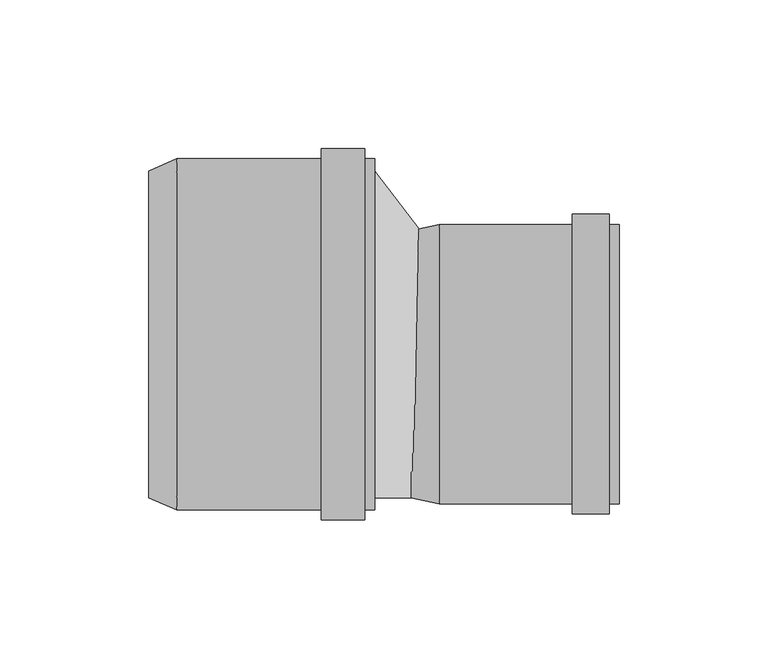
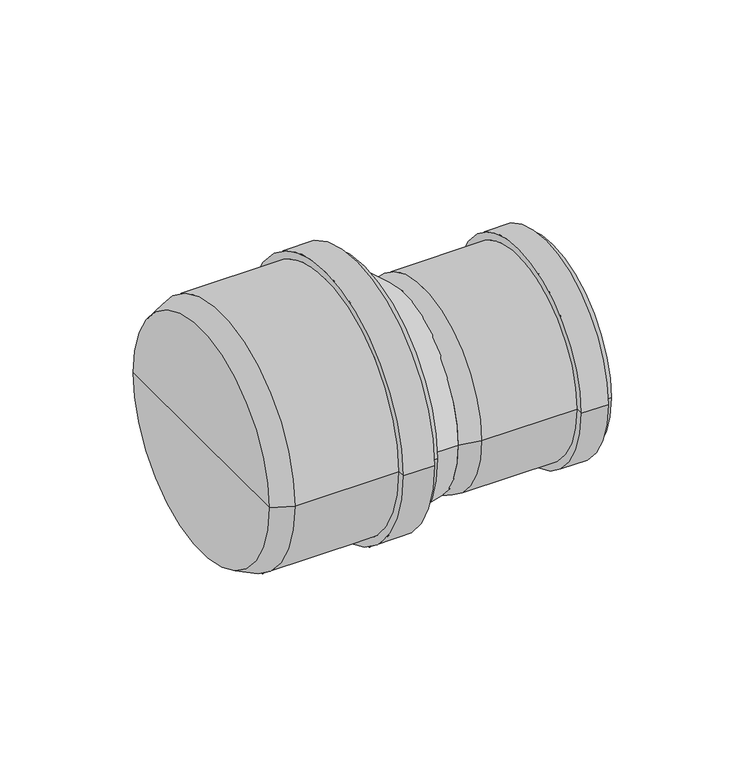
"""IFC4 building model written with IfcOpenShell, lengths in millimetres: pipe fitting geometry, pf_HTR_red-nes-kratka : pf_HTR_red-nes-kratka."""

from ifc_helpers import new_model, si_unit, frame, origin, place, context, project, spatial, polyline, circle_curve, source, transform, mapped, element, save
from ifc_brep_helpers import plane_surface, cylinder_surface, revolved_surface, spline_surface, advanced_brep


def pipe_fitting_57054826(model_context):
    return source(origin(), model_context, "Body", "AdvancedBrep", [
        advanced_brep(
        [(-76.0, -55.0, 0.0), (-76.0, 55.0, 0.0), (-66.5, 59.1, 0.0), (-66.5, -59.1, 0.0), (-76.0, 0.0, 0.0), (0.0, -59.1, 0.0), (0.0, 59.1, 0.0), (0.0, 0.0, 0.0), (-3.4, -59.1, 0.0), (-3.4, 59.1, 0.0), (-3.4, -62.5, 0.0), (-3.4, 62.5, 0.0), (-17.9, -62.5, 0.0), (-17.9, 62.5, 0.0), (-17.9, -59.1, 0.0), (-17.9, 59.1, 0.0)],
        [
            (0, 1, circle_curve(frame((-76.0, 0.0, 0.0), z_axis=(1.0, 0.0, 0.0), x_axis=(0.0, 1.0, 0.0)), 55.0)),
            (1, 2),
            (2, 3, circle_curve(frame((-66.5, 0.0, 0.0), z_axis=(-1.0, 0.0, 0.0), x_axis=(0.0, 1.0, 0.0)), 59.1)),
            (3, 0),
            (1, 0, circle_curve(frame((-76.0, 0.0, 0.0), z_axis=(1.0, 0.0, 0.0), x_axis=(0.0, 1.0, 0.0)), 55.0)),
            (3, 2, circle_curve(frame((-66.5, 0.0, 0.0), z_axis=(-1.0, 0.0, 0.0), x_axis=(0.0, 1.0, 0.0)), 59.1)),
            (4, 1),
            (0, 4),
            (5, 6, circle_curve(frame((0.0, 0.0, 0.0), z_axis=(1.0, 0.0, 0.0), x_axis=(0.0, 1.0, 0.0)), 59.1)),
            (6, 7),
            (7, 5),
            (6, 5, circle_curve(frame((0.0, 0.0, 0.0), z_axis=(1.0, 0.0, 0.0), x_axis=(0.0, 1.0, 0.0)), 59.1)),
            (8, 9, circle_curve(frame((-3.4, 0.0, 0.0), z_axis=(1.0, 0.0, 0.0), x_axis=(0.0, 1.0, 0.0)), 59.1)),
            (9, 6),
            (5, 8),
            (9, 8, circle_curve(frame((-3.4, 0.0, 0.0), z_axis=(1.0, 0.0, 0.0), x_axis=(0.0, 1.0, 0.0)), 59.1)),
            (10, 11, circle_curve(frame((-3.4, 0.0, 0.0), z_axis=(1.0, 0.0, 0.0), x_axis=(0.0, 1.0, 0.0)), 62.5)),
            (11, 9),
            (8, 10),
            (11, 10, circle_curve(frame((-3.4, 0.0, 0.0), z_axis=(1.0, 0.0, 0.0), x_axis=(0.0, 1.0, 0.0)), 62.5)),
            (12, 13, circle_curve(frame((-17.9, 0.0, 0.0), z_axis=(1.0, 0.0, 0.0), x_axis=(0.0, 1.0, 0.0)), 62.5)),
            (13, 11),
            (10, 12),
            (13, 12, circle_curve(frame((-17.9, 0.0, 0.0), z_axis=(1.0, 0.0, 0.0), x_axis=(0.0, 1.0, 0.0)), 62.5)),
            (14, 15, circle_curve(frame((-17.9, 0.0, 0.0), z_axis=(1.0, 0.0, 0.0), x_axis=(0.0, 1.0, 0.0)), 59.1)),
            (15, 13),
            (12, 14),
            (15, 14, circle_curve(frame((-17.9, 0.0, 0.0), z_axis=(1.0, 0.0, 0.0), x_axis=(0.0, 1.0, 0.0)), 59.1)),
            (2, 15),
            (14, 3),
        ],
        [
            revolved_surface(polyline([(-66.5, 59.1, 0.0), (-76.0, 55.0, 0.0)]), (-76.0, 0.0, 0.0), (-1.0, 0.0, 0.0)),
            plane_surface(frame((-76.0, 0.0, 0.0), z_axis=(-1.0, 0.0, 0.0), x_axis=(0.0, 1.0, 0.0))),
            plane_surface(frame((0.0, 0.0, 0.0), z_axis=(1.0, 0.0, 0.0), x_axis=(0.0, 1.0, 0.0))),
            cylinder_surface(frame((-76.0, 0.0, 0.0), z_axis=(-1.0, 0.0, 0.0), x_axis=(0.0, 1.0, 0.0)), 59.1),
            plane_surface(frame((-3.4, 0.0, 0.0), z_axis=(1.0, 0.0, 0.0), x_axis=(0.0, 1.0, 0.0))),
            cylinder_surface(frame((-76.0, 0.0, 0.0), z_axis=(-1.0, 0.0, 0.0), x_axis=(0.0, 1.0, 0.0)), 62.5),
            plane_surface(frame((-17.9, 0.0, 0.0), z_axis=(-1.0, 0.0, 0.0), x_axis=(0.0, 1.0, 0.0))),
        ],
        [
            (0, [[1, 2, 3, 4]]),
            (0, [[5, -4, 6, -2]]),
            (1, [[7, -1, 8]]),
            (1, [[-8, -5, -7]]),
            (2, [[9, 10, 11]]),
            (2, [[12, -11, -10]]),
            (3, [[13, 14, -9, 15]]),
            (3, [[16, -15, -12, -14]]),
            (4, [[17, 18, -13, 19]]),
            (4, [[20, -19, -16, -18]]),
            (5, [[21, 22, -17, 23]]),
            (5, [[24, -23, -20, -22]]),
            (6, [[25, 26, -21, 27]]),
            (6, [[28, -27, -24, -26]]),
            (3, [[-3, 29, -25, 30]]),
            (3, [[-6, -30, -28, -29]]),
        ],
    ),
        advanced_brep(
        [(12.25, -55.0, 0.0), (12.25, 35.0, 0.0), (21.75, 37.0, 0.0), (21.75, -57.0, 0.0), (12.25, -10.0, 0.0), (82.25, -57.0, 0.0), (82.25, 37.0, 0.0), (82.25, -10.0, 0.0), (78.85, -57.0, 0.0), (78.85, 37.0, 0.0), (78.85, -60.4, 0.0), (78.85, 40.4, 0.0), (66.35, -60.4, 0.0), (66.35, 40.4, 0.0), (66.35, -57.0, 0.0), (66.35, 37.0, 0.0)],
        [
            (0, 1, circle_curve(frame((12.25, -10.0, 0.0), z_axis=(1.0, 0.0, 0.0), x_axis=(0.0, 1.0, 0.0)), 45.0)),
            (1, 2),
            (2, 3, circle_curve(frame((21.75, -10.0, 0.0), z_axis=(-1.0, 0.0, 0.0), x_axis=(0.0, 1.0, 0.0)), 47.0)),
            (3, 0),
            (1, 0, circle_curve(frame((12.25, -10.0, 0.0), z_axis=(1.0, 0.0, 0.0), x_axis=(0.0, 1.0, 0.0)), 45.0)),
            (3, 2, circle_curve(frame((21.75, -10.0, 0.0), z_axis=(-1.0, 0.0, 0.0), x_axis=(0.0, 1.0, 0.0)), 47.0)),
            (4, 1),
            (0, 4),
            (5, 6, circle_curve(frame((82.25, -10.0, 0.0), z_axis=(1.0, 0.0, 0.0), x_axis=(0.0, 1.0, 0.0)), 47.0)),
            (6, 7),
            (7, 5),
            (6, 5, circle_curve(frame((82.25, -10.0, 0.0), z_axis=(1.0, 0.0, 0.0), x_axis=(0.0, 1.0, 0.0)), 47.0)),
            (8, 9, circle_curve(frame((78.85, -10.0, 0.0), z_axis=(1.0, 0.0, 0.0), x_axis=(0.0, 1.0, 0.0)), 47.0)),
            (9, 6),
            (5, 8),
            (9, 8, circle_curve(frame((78.85, -10.0, 0.0), z_axis=(1.0, 0.0, 0.0), x_axis=(0.0, 1.0, 0.0)), 47.0)),
            (10, 11, circle_curve(frame((78.85, -10.0, 0.0), z_axis=(1.0, 0.0, 0.0), x_axis=(0.0, 1.0, 0.0)), 50.4)),
            (11, 9),
            (8, 10),
            (11, 10, circle_curve(frame((78.85, -10.0, 0.0), z_axis=(1.0, 0.0, 0.0), x_axis=(0.0, 1.0, 0.0)), 50.4)),
            (12, 13, circle_curve(frame((66.35, -10.0, 0.0), z_axis=(1.0, 0.0, 0.0), x_axis=(0.0, 1.0, 0.0)), 50.4)),
            (13, 11),
            (10, 12),
            (13, 12, circle_curve(frame((66.35, -10.0, 0.0), z_axis=(1.0, 0.0, 0.0), x_axis=(0.0, 1.0, 0.0)), 50.4)),
            (14, 15, circle_curve(frame((66.35, -10.0, 0.0), z_axis=(1.0, 0.0, 0.0), x_axis=(0.0, 1.0, 0.0)), 47.0)),
            (15, 13),
            (12, 14),
            (15, 14, circle_curve(frame((66.35, -10.0, 0.0), z_axis=(1.0, 0.0, 0.0), x_axis=(0.0, 1.0, 0.0)), 47.0)),
            (2, 15),
            (14, 3),
        ],
        [
            revolved_surface(polyline([(21.75, 37.0, 0.0), (12.25, 35.0, 0.0)]), (12.25, -10.0, 0.0), (-1.0, 0.0, 0.0)),
            plane_surface(frame((12.25, -10.0, 0.0), z_axis=(-1.0, 0.0, 0.0), x_axis=(0.0, 1.0, 0.0))),
            plane_surface(frame((82.25, -10.0, 0.0), z_axis=(1.0, 0.0, 0.0), x_axis=(0.0, 1.0, 0.0))),
            cylinder_surface(frame((12.25, -10.0, 0.0), z_axis=(-1.0, 0.0, 0.0), x_axis=(0.0, 1.0, 0.0)), 47.0),
            plane_surface(frame((78.85, -10.0, 0.0), z_axis=(1.0, 0.0, 0.0), x_axis=(0.0, 1.0, 0.0))),
            cylinder_surface(frame((12.25, -10.0, 0.0), z_axis=(-1.0, 0.0, 0.0), x_axis=(0.0, 1.0, 0.0)), 50.4),
            plane_surface(frame((66.35, -10.0, 0.0), z_axis=(-1.0, 0.0, 0.0), x_axis=(0.0, 1.0, 0.0))),
        ],
        [
            (0, [[1, 2, 3, 4]]),
            (0, [[5, -4, 6, -2]]),
            (1, [[7, -1, 8]]),
            (1, [[-8, -5, -7]]),
            (2, [[9, 10, 11]]),
            (2, [[12, -11, -10]]),
            (3, [[13, 14, -9, 15]]),
            (3, [[16, -15, -12, -14]]),
            (4, [[17, 18, -13, 19]]),
            (4, [[20, -19, -16, -18]]),
            (5, [[21, 22, -17, 23]]),
            (5, [[24, -23, -20, -22]]),
            (6, [[25, 26, -21, 27]]),
            (6, [[28, -27, -24, -26]]),
            (3, [[-3, 29, -25, 30]]),
            (3, [[-6, -30, -28, -29]]),
        ],
    ),
        advanced_brep(
        [(15.25, -55.0, 0.0), (15.25, 35.0, 0.0), (0.0, -55.0, 0.0), (0.0, 55.0, 0.0)],
        [
            (0, 1, circle_curve(frame((15.25, -10.0, 0.0), z_axis=(1.0, 0.0, 0.0), x_axis=(0.0, 1.0, 0.0)), 45.0)),
            (1, 0, circle_curve(frame((15.25, -10.0, 0.0), z_axis=(1.0, 0.0, 0.0), x_axis=(0.0, 1.0, 0.0)), 45.0)),
            (2, 3, circle_curve(frame((0.0, 0.0, 0.0), z_axis=(-1.0, 0.0, 0.0), x_axis=(0.0, 1.0, 0.0)), 55.0)),
            (3, 2, circle_curve(frame((0.0, 0.0, 0.0), z_axis=(-1.0, 0.0, 0.0), x_axis=(0.0, 1.0, 0.0)), 55.0)),
            (3, 1),
            (0, 2),
        ],
        [
            plane_surface(frame((15.25, -10.0, 0.0), z_axis=(1.0, 0.0, 0.0), x_axis=(0.0, 0.0, -1.0))),
            plane_surface(frame((0.0, 0.0, 0.0), z_axis=(-1.0, 0.0, 0.0), x_axis=(0.0, 0.0, -1.0))),
            spline_surface(2, 1, [[(0.0, -55.0, 0.0), (15.25, -55.0, 0.0)], [(0.0, -55.0, -55.0), (15.25, -55.0, -45.0)], [(0.0, 0.0, -55.0), (15.25, -10.0, -45.0)], [(0.0, 55.0, -55.0), (15.25, 35.0, -45.0)], [(0.0, 55.0, 0.0), (15.25, 35.0, 0.0)]], [3, 2, 3], [2, 2], [0.0, 1.0, 2.0], [0.0, 1.0], weights=[[1.0, 1.0], [0.7071067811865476, 0.7071067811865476], [1.0, 1.0], [0.7071067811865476, 0.7071067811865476], [1.0, 1.0]]),
            spline_surface(2, 1, [[(0.0, 55.0, 0.0), (15.25, 35.0, 0.0)], [(0.0, 55.0, 55.0), (15.25, 35.0, 45.0)], [(0.0, 0.0, 55.0), (15.25, -10.0, 45.0)], [(0.0, -55.0, 55.0), (15.25, -55.0, 45.0)], [(0.0, -55.0, 0.0), (15.25, -55.0, 0.0)]], [3, 2, 3], [2, 2], [0.0, 1.0, 2.0], [0.0, 1.0], weights=[[1.0, 1.0], [0.7071067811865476, 0.7071067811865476], [1.0, 1.0], [0.7071067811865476, 0.7071067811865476], [1.0, 1.0]]),
        ],
        [
            (0, [[1, 2]]),
            (1, [[3, 4]]),
            (2, [[-4, 5, -1, 6]]),
            (3, [[-3, -6, -2, -5]]),
        ],
    ),
    ])


if __name__ == "__main__":
    model = new_model("IFC4")
    model_context = context("Model", 3, world=origin())
    ifc_project = project(units=[si_unit("LENGTHUNIT", "METRE", prefix="MILLI")], contexts=[model_context])
    site = spatial("IfcSite", under=ifc_project)
    building = spatial("IfcBuilding", under=site)
    placement = place(None, origin())
    pipe_fitting_shape = pipe_fitting_57054826(model_context)
    element("IfcPipeFitting", 1, ObjectType="pf_HTR_red-nes-kratka : pf_HTR_red-nes-kratka", at=placement, inside=building, context=model_context, shape_type="MappedRepresentation", body=[
        mapped(pipe_fitting_shape, transform((0.0, 0.0, 0.0), x_axis=(1.0, 0.0, 0.0), y_axis=(0.0, 1.0, 0.0), z_axis=(0.0, 0.0, 1.0))),
    ])
    save(model, "model.ifc")
